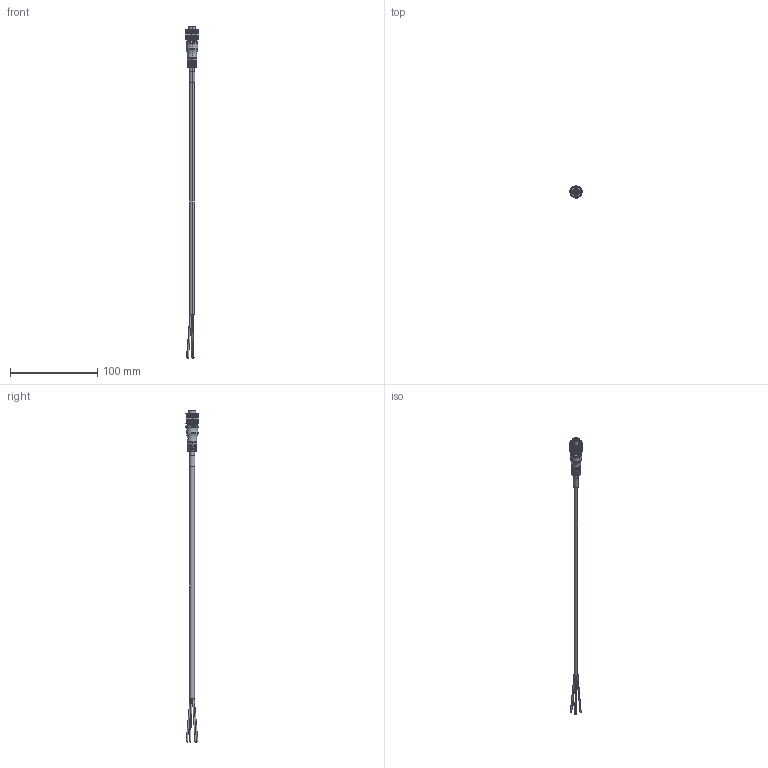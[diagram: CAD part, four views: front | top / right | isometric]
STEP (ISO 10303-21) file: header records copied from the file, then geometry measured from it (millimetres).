
FILE_DESCRIPTION((''),'2;1');
FILE_NAME('889D-F4FC-2','2013-11-29T',('20019289'),('Rockwell Automation'),'PRO/ENGINEER BY PARAMETRIC TECHNOLOGY CORPORATION, 2010140','PRO/ENGINEER BY PARAMETRIC TECHNOLOGY CORPORATION, 2010140','');
FILE_SCHEMA(('CONFIG_CONTROL_DESIGN'));
Length unit declared in the file: inch
Products named in the file (1): 889D-F4FC-2
Bounding box: 14.01 x 14.26 x 380.11 mm (x, y, z)
Volume: 11508.5 mm3; surface area: 9512.3 mm2
Topology: 1 solids, 1 shells, 581 faces, 1338 edges, 779 vertices
Faces by surface type: plane 279, cylinder 218, cone 58, torus 26
Entity records: 16549 total; most frequent: CARTESIAN_POINT 3276, DIRECTION 2929, ORIENTED_EDGE 2676, EDGE_CURVE 1338, AXIS2_PLACEMENT_3D 1128, VERTEX_POINT 779, VECTOR 673, LINE 673
